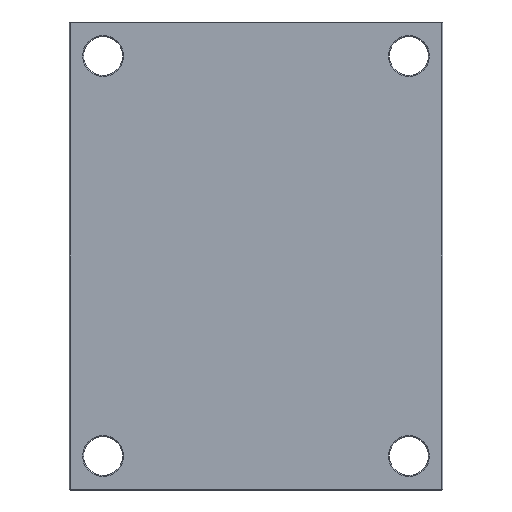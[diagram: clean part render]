
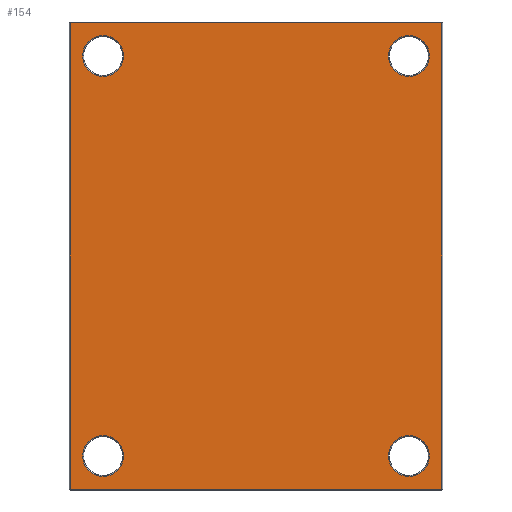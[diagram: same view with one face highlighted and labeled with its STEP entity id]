
A CAD part, front view. The second image highlights one B-rep face of the part: STEP entity #154.
In plain terms, the highlighted planar face has unit normal (0, -1, 0).
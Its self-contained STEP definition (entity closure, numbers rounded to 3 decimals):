
#8 = CIRCLE ( 'NONE', #1982, 21.65 ) ;
#13 = CARTESIAN_POINT ( 'NONE',  ( 197., 0., 0. ) ) ;
#17 = VERTEX_POINT ( 'NONE', #1941 ) ;
#41 = EDGE_LOOP ( 'NONE', ( #941, #1438, #1860, #110 ) ) ;
#58 = CARTESIAN_POINT ( 'NONE',  ( 162., 0., 212. ) ) ;
#76 = DIRECTION ( 'NONE',  ( 0., 1., 0. ) ) ;
#77 = FACE_BOUND ( 'NONE', #1409, .T. ) ;
#83 = VERTEX_POINT ( 'NONE', #1286 ) ;
#84 = DIRECTION ( 'NONE',  ( 0., 0., 1. ) ) ;
#109 = CARTESIAN_POINT ( 'NONE',  ( 162., 0., -212. ) ) ;
#110 = ORIENTED_EDGE ( 'NONE', *, *, #413, .T. ) ;
#123 = DIRECTION ( 'NONE',  ( 0., 1., 0. ) ) ;
#126 = CIRCLE ( 'NONE', #1565, 21.65 ) ;
#127 = DIRECTION ( 'NONE',  ( 0., 1., 0. ) ) ;
#135 = DIRECTION ( 'NONE',  ( 0., 0., 1. ) ) ;
#154 = ADVANCED_FACE ( 'NONE', ( #957, #1924, #77, #556, #1820 ), #784, .F. ) ;
#163 = VERTEX_POINT ( 'NONE', #1496 ) ;
#179 = VECTOR ( 'NONE', #639, 1000. ) ;
#184 = DIRECTION ( 'NONE',  ( 0., 0., 1. ) ) ;
#190 = DIRECTION ( 'NONE',  ( 0., 1., 0. ) ) ;
#223 = CARTESIAN_POINT ( 'NONE',  ( -162., 0., 212. ) ) ;
#242 = CARTESIAN_POINT ( 'NONE',  ( -162., 0., 190.35 ) ) ;
#274 = VERTEX_POINT ( 'NONE', #242 ) ;
#310 = DIRECTION ( 'NONE',  ( 0., 1., 0. ) ) ;
#317 = CARTESIAN_POINT ( 'NONE',  ( -162., 0., -212. ) ) ;
#321 = VECTOR ( 'NONE', #720, 1000. ) ;
#325 = DIRECTION ( 'NONE',  ( 0., 1., 0. ) ) ;
#338 = CARTESIAN_POINT ( 'NONE',  ( -162., 0., 212. ) ) ;
#344 = DIRECTION ( 'NONE',  ( 0., 0., 1. ) ) ;
#353 = CIRCLE ( 'NONE', #1970, 21.65 ) ;
#369 = CARTESIAN_POINT ( 'NONE',  ( -197., 0., 247. ) ) ;
#389 = ORIENTED_EDGE ( 'NONE', *, *, #611, .T. ) ;
#413 = EDGE_CURVE ( 'NONE', #1507, #17, #756, .T. ) ;
#418 = EDGE_CURVE ( 'NONE', #1537, #1507, #1243, .T. ) ;
#427 = VERTEX_POINT ( 'NONE', #808 ) ;
#438 = ORIENTED_EDGE ( 'NONE', *, *, #549, .T. ) ;
#455 = CIRCLE ( 'NONE', #1592, 21.65 ) ;
#497 = EDGE_CURVE ( 'NONE', #427, #1537, #1923, .T. ) ;
#502 = EDGE_CURVE ( 'NONE', #17, #427, #1062, .T. ) ;
#529 = EDGE_CURVE ( 'NONE', #542, #274, #126, .T. ) ;
#542 = VERTEX_POINT ( 'NONE', #829 ) ;
#549 = EDGE_CURVE ( 'NONE', #888, #1796, #1817, .T. ) ;
#552 = EDGE_CURVE ( 'NONE', #83, #764, #1395, .T. ) ;
#555 = VECTOR ( 'NONE', #1589, 1000. ) ;
#556 = FACE_BOUND ( 'NONE', #691, .T. ) ;
#574 = CARTESIAN_POINT ( 'NONE',  ( -197., 0., 0. ) ) ;
#611 = EDGE_CURVE ( 'NONE', #1220, #163, #455, .T. ) ;
#639 = DIRECTION ( 'NONE',  ( 0., 0., 1. ) ) ;
#647 = CARTESIAN_POINT ( 'NONE',  ( 0., 0., -247. ) ) ;
#650 = CARTESIAN_POINT ( 'NONE',  ( 0., 0., 247. ) ) ;
#674 = DIRECTION ( 'NONE',  ( 0., 0., -1. ) ) ;
#691 = EDGE_LOOP ( 'NONE', ( #1379, #1801 ) ) ;
#720 = DIRECTION ( 'NONE',  ( 1., 0., 0. ) ) ;
#752 = CARTESIAN_POINT ( 'NONE',  ( 162., 0., 233.65 ) ) ;
#753 = DIRECTION ( 'NONE',  ( 0., 0., 1. ) ) ;
#756 = LINE ( 'NONE', #647, #321 ) ;
#764 = VERTEX_POINT ( 'NONE', #1194 ) ;
#784 = PLANE ( 'NONE',  #1480 ) ;
#808 = CARTESIAN_POINT ( 'NONE',  ( 197., 0., 247. ) ) ;
#829 = CARTESIAN_POINT ( 'NONE',  ( -162., 0., 233.65 ) ) ;
#830 = ORIENTED_EDGE ( 'NONE', *, *, #1054, .T. ) ;
#888 = VERTEX_POINT ( 'NONE', #752 ) ;
#941 = ORIENTED_EDGE ( 'NONE', *, *, #502, .T. ) ;
#950 = CARTESIAN_POINT ( 'NONE',  ( 162., 0., 190.35 ) ) ;
#957 = FACE_BOUND ( 'NONE', #1124, .T. ) ;
#1042 = EDGE_CURVE ( 'NONE', #163, #1220, #353, .T. ) ;
#1054 = EDGE_CURVE ( 'NONE', #764, #83, #1624, .T. ) ;
#1062 = LINE ( 'NONE', #13, #179 ) ;
#1073 = CARTESIAN_POINT ( 'NONE',  ( 0., 0., 0. ) ) ;
#1088 = EDGE_CURVE ( 'NONE', #1796, #888, #1094, .T. ) ;
#1094 = CIRCLE ( 'NONE', #1958, 21.65 ) ;
#1114 = CARTESIAN_POINT ( 'NONE',  ( 162., 0., -212. ) ) ;
#1124 = EDGE_LOOP ( 'NONE', ( #2148, #389 ) ) ;
#1125 = DIRECTION ( 'NONE',  ( 0., 0., 1. ) ) ;
#1129 = EDGE_CURVE ( 'NONE', #274, #542, #8, .T. ) ;
#1133 = CARTESIAN_POINT ( 'NONE',  ( -162., 0., -212. ) ) ;
#1139 = DIRECTION ( 'NONE',  ( 0., 0., 1. ) ) ;
#1194 = CARTESIAN_POINT ( 'NONE',  ( 162., 0., -233.65 ) ) ;
#1220 = VERTEX_POINT ( 'NONE', #1754 ) ;
#1243 = LINE ( 'NONE', #574, #1735 ) ;
#1258 = DIRECTION ( 'NONE',  ( 0., 0., 1. ) ) ;
#1286 = CARTESIAN_POINT ( 'NONE',  ( 162., 0., -190.35 ) ) ;
#1322 = DIRECTION ( 'NONE',  ( 0., 1., 0. ) ) ;
#1323 = ORIENTED_EDGE ( 'NONE', *, *, #552, .T. ) ;
#1379 = ORIENTED_EDGE ( 'NONE', *, *, #1129, .T. ) ;
#1395 = CIRCLE ( 'NONE', #1572, 21.65 ) ;
#1408 = EDGE_LOOP ( 'NONE', ( #830, #1323 ) ) ;
#1409 = EDGE_LOOP ( 'NONE', ( #1750, #438 ) ) ;
#1438 = ORIENTED_EDGE ( 'NONE', *, *, #497, .T. ) ;
#1480 = AXIS2_PLACEMENT_3D ( 'NONE', #1073, #190, #1125 ) ;
#1496 = CARTESIAN_POINT ( 'NONE',  ( -162., 0., -233.65 ) ) ;
#1507 = VERTEX_POINT ( 'NONE', #2003 ) ;
#1521 = AXIS2_PLACEMENT_3D ( 'NONE', #58, #76, #84 ) ;
#1537 = VERTEX_POINT ( 'NONE', #369 ) ;
#1565 = AXIS2_PLACEMENT_3D ( 'NONE', #338, #310, #184 ) ;
#1572 = AXIS2_PLACEMENT_3D ( 'NONE', #109, #123, #135 ) ;
#1589 = DIRECTION ( 'NONE',  ( -1., 0., 0. ) ) ;
#1592 = AXIS2_PLACEMENT_3D ( 'NONE', #317, #325, #344 ) ;
#1602 = DIRECTION ( 'NONE',  ( 0., 1., 0. ) ) ;
#1624 = CIRCLE ( 'NONE', #1968, 21.65 ) ;
#1735 = VECTOR ( 'NONE', #674, 1000. ) ;
#1750 = ORIENTED_EDGE ( 'NONE', *, *, #1088, .T. ) ;
#1754 = CARTESIAN_POINT ( 'NONE',  ( -162., 0., -190.35 ) ) ;
#1796 = VERTEX_POINT ( 'NONE', #950 ) ;
#1801 = ORIENTED_EDGE ( 'NONE', *, *, #529, .T. ) ;
#1817 = CIRCLE ( 'NONE', #1521, 21.65 ) ;
#1820 = FACE_OUTER_BOUND ( 'NONE', #41, .T. ) ;
#1860 = ORIENTED_EDGE ( 'NONE', *, *, #418, .T. ) ;
#1923 = LINE ( 'NONE', #650, #555 ) ;
#1924 = FACE_BOUND ( 'NONE', #1408, .T. ) ;
#1941 = CARTESIAN_POINT ( 'NONE',  ( 197., 0., -247. ) ) ;
#1958 = AXIS2_PLACEMENT_3D ( 'NONE', #2179, #2161, #2106 ) ;
#1968 = AXIS2_PLACEMENT_3D ( 'NONE', #1114, #127, #1139 ) ;
#1970 = AXIS2_PLACEMENT_3D ( 'NONE', #1133, #1322, #753 ) ;
#1982 = AXIS2_PLACEMENT_3D ( 'NONE', #223, #1602, #1258 ) ;
#2003 = CARTESIAN_POINT ( 'NONE',  ( -197., 0., -247. ) ) ;
#2106 = DIRECTION ( 'NONE',  ( 0., 0., 1. ) ) ;
#2148 = ORIENTED_EDGE ( 'NONE', *, *, #1042, .T. ) ;
#2161 = DIRECTION ( 'NONE',  ( 0., 1., 0. ) ) ;
#2179 = CARTESIAN_POINT ( 'NONE',  ( 162., 0., 212. ) ) ;
